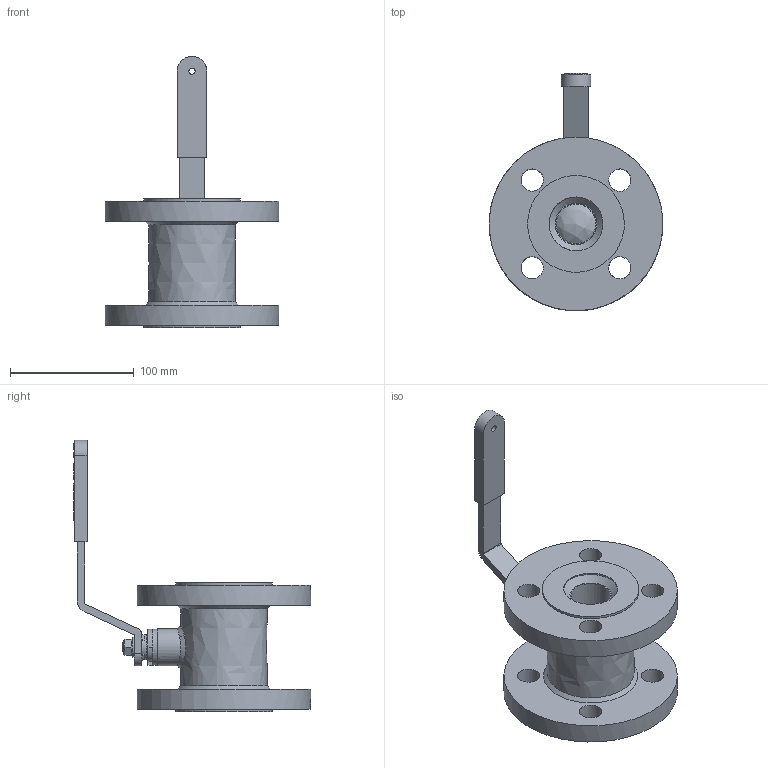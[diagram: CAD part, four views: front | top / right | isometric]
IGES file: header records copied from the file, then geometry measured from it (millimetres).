
Global section: file name: 32.21k.000.B1-10-40.00; native system: Autodesk Inventor 2015; preprocessor: unknown; author: P. Manijak; date: 20171031.110254; units: centimetre
Bounding box: 140 x 191.38 x 218.99 mm (x, y, z)
Volume: 553767.8 mm3; surface area: 147869.5 mm2
Topology: 2 solids, 12 shells, 570 faces, 1525 edges, 1012 vertices
Faces by surface type: bspline 570
